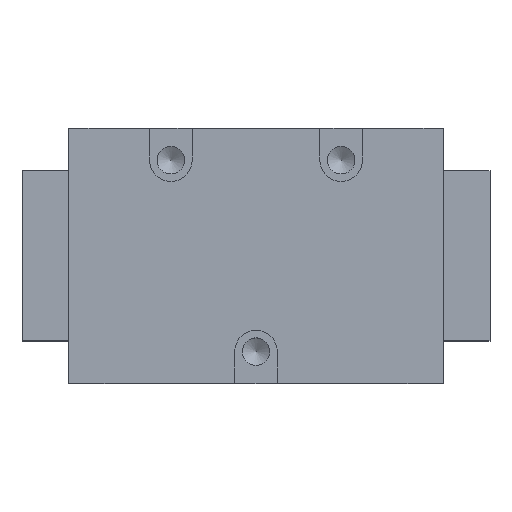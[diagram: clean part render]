
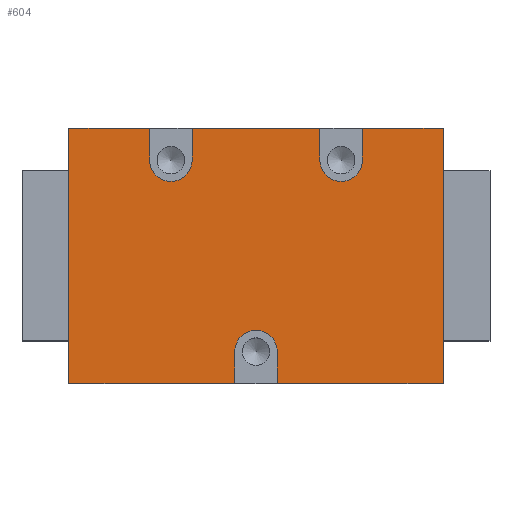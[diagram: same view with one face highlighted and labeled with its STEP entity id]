
A CAD part, top view. The second image highlights one B-rep face of the part: STEP entity #604.
In plain terms, the highlighted planar face has unit normal (0, 0, 1).
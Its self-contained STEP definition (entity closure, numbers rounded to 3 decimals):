
#146=PLANE('',#4323);
#604=ADVANCED_FACE('',(#930),#146,.T.);
#930=FACE_OUTER_BOUND('',#1107,.T.);
#1107=EDGE_LOOP('',(#1786,#1787,#1788,#1789,#1790,#1791,#1792,#1793,#1794,
#1795,#1796,#1797,#1798,#1799,#1800,#1801));
#1547=CIRCLE('',#4320,10.);
#1548=CIRCLE('',#4321,10.);
#1549=CIRCLE('',#4322,10.);
#1786=ORIENTED_EDGE('',*,*,#3220,.F.);
#1787=ORIENTED_EDGE('',*,*,#3218,.T.);
#1788=ORIENTED_EDGE('',*,*,#3221,.F.);
#1789=ORIENTED_EDGE('',*,*,#3222,.F.);
#1790=ORIENTED_EDGE('',*,*,#3223,.F.);
#1791=ORIENTED_EDGE('',*,*,#3214,.T.);
#1792=ORIENTED_EDGE('',*,*,#3165,.T.);
#1793=ORIENTED_EDGE('',*,*,#3203,.T.);
#1794=ORIENTED_EDGE('',*,*,#3224,.F.);
#1795=ORIENTED_EDGE('',*,*,#3225,.F.);
#1796=ORIENTED_EDGE('',*,*,#3226,.F.);
#1797=ORIENTED_EDGE('',*,*,#3205,.T.);
#1798=ORIENTED_EDGE('',*,*,#3189,.T.);
#1799=ORIENTED_EDGE('',*,*,#3212,.T.);
#1800=ORIENTED_EDGE('',*,*,#3227,.F.);
#1801=ORIENTED_EDGE('',*,*,#3228,.F.);
#2766=VERTEX_POINT('',#7527);
#2767=VERTEX_POINT('',#7529);
#2790=VERTEX_POINT('',#7576);
#2791=VERTEX_POINT('',#7578);
#2804=VERTEX_POINT('',#7605);
#2805=VERTEX_POINT('',#7609);
#2811=VERTEX_POINT('',#7622);
#2812=VERTEX_POINT('',#7626);
#2815=VERTEX_POINT('',#7632);
#2816=VERTEX_POINT('',#7634);
#2817=VERTEX_POINT('',#7638);
#2818=VERTEX_POINT('',#7640);
#2819=VERTEX_POINT('',#7642);
#2820=VERTEX_POINT('',#7645);
#2821=VERTEX_POINT('',#7647);
#2822=VERTEX_POINT('',#7650);
#3165=EDGE_CURVE('',#2767,#2766,#3657,.T.);
#3189=EDGE_CURVE('',#2791,#2790,#3669,.T.);
#3203=EDGE_CURVE('',#2766,#2804,#3677,.T.);
#3205=EDGE_CURVE('',#2805,#2791,#3679,.T.);
#3212=EDGE_CURVE('',#2790,#2811,#3683,.T.);
#3214=EDGE_CURVE('',#2812,#2767,#3685,.T.);
#3218=EDGE_CURVE('',#2816,#2815,#3689,.T.);
#3220=EDGE_CURVE('',#2816,#2817,#3691,.T.);
#3221=EDGE_CURVE('',#2818,#2815,#3692,.T.);
#3222=EDGE_CURVE('',#2819,#2818,#1547,.T.);
#3223=EDGE_CURVE('',#2812,#2819,#3693,.T.);
#3224=EDGE_CURVE('',#2820,#2804,#3694,.T.);
#3225=EDGE_CURVE('',#2821,#2820,#1548,.T.);
#3226=EDGE_CURVE('',#2805,#2821,#3695,.T.);
#3227=EDGE_CURVE('',#2822,#2811,#3696,.T.);
#3228=EDGE_CURVE('',#2817,#2822,#1549,.T.);
#3657=LINE('',#7528,#3970);
#3669=LINE('',#7577,#3982);
#3677=LINE('',#7606,#3990);
#3679=LINE('',#7608,#3992);
#3683=LINE('',#7623,#3996);
#3685=LINE('',#7625,#3998);
#3689=LINE('',#7633,#4002);
#3691=LINE('',#7637,#4004);
#3692=LINE('',#7639,#4005);
#3693=LINE('',#7643,#4006);
#3694=LINE('',#7644,#4007);
#3695=LINE('',#7648,#4008);
#3696=LINE('',#7649,#4009);
#3970=VECTOR('',#4753,1.);
#3982=VECTOR('',#4791,1.);
#3990=VECTOR('',#4813,1.);
#3992=VECTOR('',#4815,1.);
#3996=VECTOR('',#4827,1.);
#3998=VECTOR('',#4829,1.);
#4002=VECTOR('',#4833,1.);
#4004=VECTOR('',#4837,1.);
#4005=VECTOR('',#4838,1.);
#4006=VECTOR('',#4841,1.);
#4007=VECTOR('',#4842,1.);
#4008=VECTOR('',#4845,1.);
#4009=VECTOR('',#4846,1.);
#4320=AXIS2_PLACEMENT_3D('',#7641,#4839,#4840);
#4321=AXIS2_PLACEMENT_3D('',#7646,#4843,#4844);
#4322=AXIS2_PLACEMENT_3D('',#7651,#4847,#4848);
#4323=AXIS2_PLACEMENT_3D('',#7652,#4849,#4850);
#4753=DIRECTION('',(0.,-1.,0.));
#4791=DIRECTION('',(0.,1.,0.));
#4813=DIRECTION('',(1.,0.,0.));
#4815=DIRECTION('',(1.,0.,0.));
#4827=DIRECTION('',(-1.,0.,0.));
#4829=DIRECTION('',(-1.,0.,0.));
#4833=DIRECTION('',(-1.,0.,0.));
#4837=DIRECTION('',(0.,-1.,0.));
#4838=DIRECTION('',(0.,1.,0.));
#4839=DIRECTION('',(0.,0.,1.));
#4840=DIRECTION('',(0.,1.,0.));
#4841=DIRECTION('',(0.,-1.,0.));
#4842=DIRECTION('',(0.,-1.,0.));
#4843=DIRECTION('',(0.,0.,1.));
#4844=DIRECTION('',(0.,1.,0.));
#4845=DIRECTION('',(0.,1.,0.));
#4846=DIRECTION('',(0.,1.,0.));
#4847=DIRECTION('',(0.,0.,1.));
#4848=DIRECTION('',(0.,1.,0.));
#4849=DIRECTION('',(0.,0.,1.));
#4850=DIRECTION('',(1.,0.,0.));
#7527=CARTESIAN_POINT('',(-88.,-60.,94.));
#7528=CARTESIAN_POINT('',(-88.,60.,94.));
#7529=CARTESIAN_POINT('',(-88.,60.,94.));
#7576=CARTESIAN_POINT('',(88.,60.,94.));
#7577=CARTESIAN_POINT('',(88.,-60.,94.));
#7578=CARTESIAN_POINT('',(88.,-60.,94.));
#7605=CARTESIAN_POINT('',(-10.,-60.,94.));
#7606=CARTESIAN_POINT('',(-88.,-60.,94.));
#7608=CARTESIAN_POINT('',(-88.,-60.,94.));
#7609=CARTESIAN_POINT('',(10.,-60.,94.));
#7622=CARTESIAN_POINT('',(50.,60.,94.));
#7623=CARTESIAN_POINT('',(88.,60.,94.));
#7625=CARTESIAN_POINT('',(88.,60.,94.));
#7626=CARTESIAN_POINT('',(-50.,60.,94.));
#7632=CARTESIAN_POINT('',(-30.,60.,94.));
#7633=CARTESIAN_POINT('',(88.,60.,94.));
#7634=CARTESIAN_POINT('',(30.,60.,94.));
#7637=CARTESIAN_POINT('',(30.,60.,94.));
#7638=CARTESIAN_POINT('',(30.,45.,94.));
#7639=CARTESIAN_POINT('',(-30.,45.,94.));
#7640=CARTESIAN_POINT('',(-30.,45.,94.));
#7641=CARTESIAN_POINT('',(-40.,45.,94.));
#7642=CARTESIAN_POINT('',(-50.,45.,94.));
#7643=CARTESIAN_POINT('',(-50.,60.,94.));
#7644=CARTESIAN_POINT('',(-10.,-45.,94.));
#7645=CARTESIAN_POINT('',(-10.,-45.,94.));
#7646=CARTESIAN_POINT('',(0.,-45.,94.));
#7647=CARTESIAN_POINT('',(10.,-45.,94.));
#7648=CARTESIAN_POINT('',(10.,-60.,94.));
#7649=CARTESIAN_POINT('',(50.,45.,94.));
#7650=CARTESIAN_POINT('',(50.,45.,94.));
#7651=CARTESIAN_POINT('',(40.,45.,94.));
#7652=CARTESIAN_POINT('',(0.,0.,94.));
